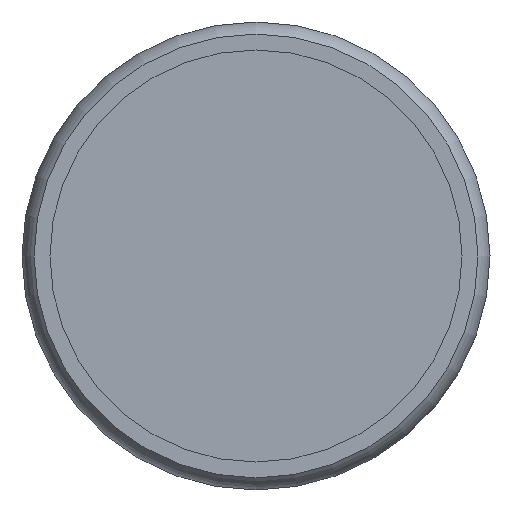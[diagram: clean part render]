
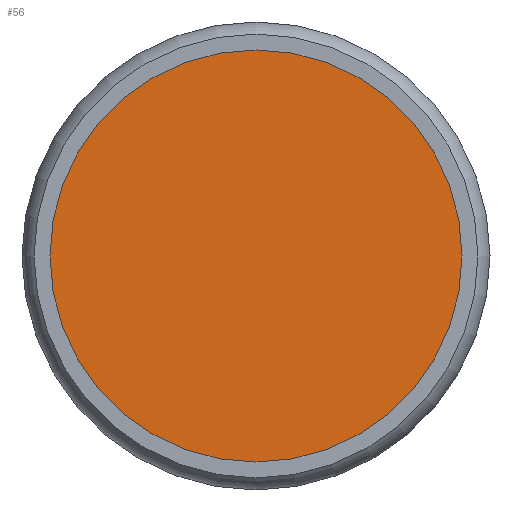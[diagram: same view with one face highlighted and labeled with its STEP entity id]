
A CAD part, front view. The second image highlights one B-rep face of the part: STEP entity #56.
In plain terms, the highlighted planar face has unit normal (0, -1, 0).
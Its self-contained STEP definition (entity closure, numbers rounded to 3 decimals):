
#56=ADVANCED_FACE('',(#93),#95,.T.);
#93=FACE_BOUND('',#94,.T.);
#94=EDGE_LOOP('',(#204));
#95=PLANE('',#96);
#96=AXIS2_PLACEMENT_3D('',#97,#98,#99);
#97=CARTESIAN_POINT('',(0.,-74.,0.));
#98=DIRECTION('',(0.,-1.,0.));
#99=DIRECTION('',(0.,0.,-1.));
#204=ORIENTED_EDGE('',*,*,#229,.T.);
#229=EDGE_CURVE('',#244,#244,#245,.T.);
#244=VERTEX_POINT('',#274);
#245=CIRCLE('',#275,19.5);
#274=CARTESIAN_POINT('',(0.,-74.,19.5));
#275=AXIS2_PLACEMENT_3D('',#276,#277,#278);
#276=CARTESIAN_POINT('',(0.,-74.,0.));
#277=DIRECTION('',(0.,-1.,0.));
#278=DIRECTION('',(0.,0.,1.));
